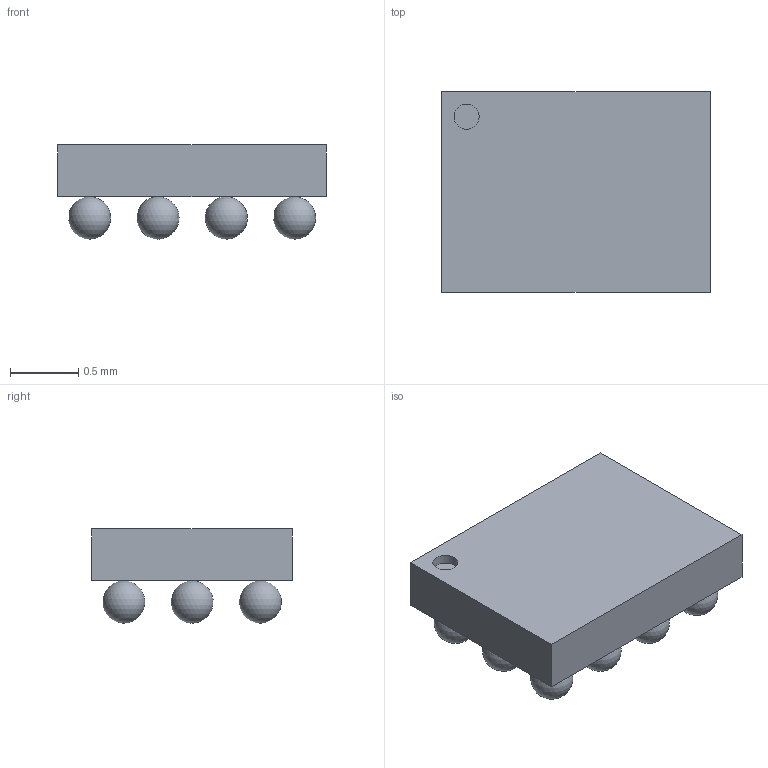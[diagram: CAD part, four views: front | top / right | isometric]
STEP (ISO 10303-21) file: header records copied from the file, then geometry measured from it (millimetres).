
FILE_DESCRIPTION(('FreeCAD Model'),'2;1');
FILE_NAME('/var/www/3D/0T/17054998.6.1.stp','2024-07-31T16:25:21',( 'Author'),(''),'Open CASCADE STEP processor 6.9','FreeCAD','Unknown' );
FILE_SCHEMA(('AUTOMOTIVE_DESIGN { 1 0 10303 214 1 1 1 1 }'));
Length unit declared in the file: millimetre
Products named in the file (3): ASSEMBLY; Array; Body
Assembly tree (2 placements, depth 2):
  ASSEMBLY
    Array
    Body
Bounding box: 1.97 x 1.47 x 0.69 mm (x, y, z)
Volume: 1.3 mm3; surface area: 12.1 mm2
Topology: 13 solids, 13 shells, 20 faces, 51 edges, 34 vertices
Faces by surface type: sphere 12, plane 7, cylinder 1
Full cylindrical faces by diameter (mm): 0.183 x1
Entity records: 707 total; most frequent: DIRECTION 93, CARTESIAN_POINT 90, LINE 41, VECTOR 41, ORIENTED_EDGE 30, PCURVE 30, DEFINITIONAL_REPRESENTATION 30, AXIS2_PLACEMENT_3D 25
